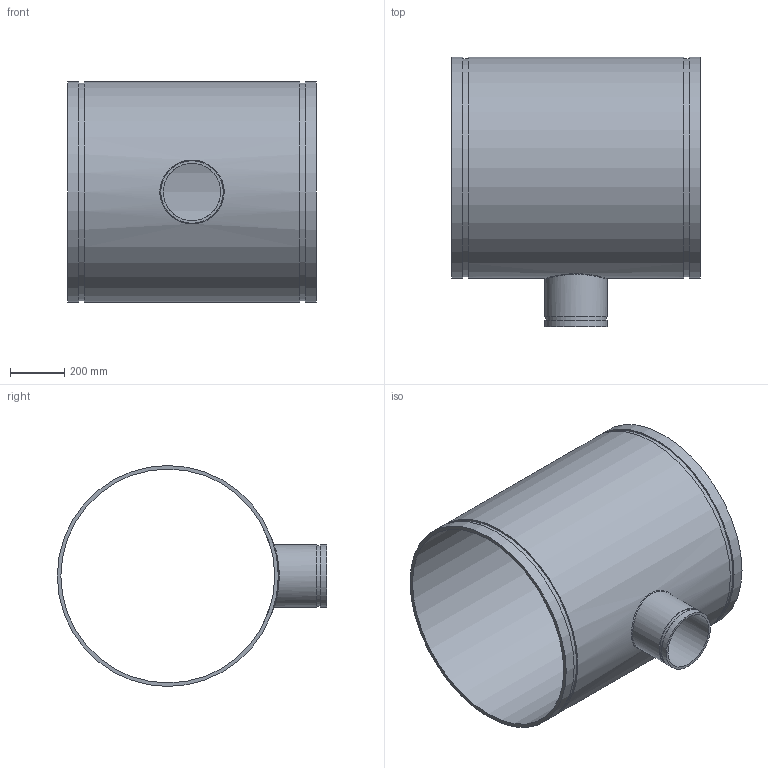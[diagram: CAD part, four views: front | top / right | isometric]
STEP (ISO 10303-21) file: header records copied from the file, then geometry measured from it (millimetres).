
FILE_DESCRIPTION(/* description */ ('VIC REDUCING TEE No 25-C','CAx-IF Rec.Pracs.---Representation and Presentation of Product Manufacturing Information (PMI)---4.0---2014-10-13'),/* implementation_level */ '2;1');
FILE_NAME(/* name */ 'C:\Users\Vjadhav\AppData\Roaming\Autodesk\ApplicationPlugins\Back Up\Victaulic_AWWA_Tee Reducing_No 25-C (DRG)\Victaulic_AWWA_Tee Reducing_No 25-C (DRG)_30.0x08.0 (750x200).stp',/* time_stamp */ '2020-08-18T18:19:10+06:00',/* author */ ('CORINNE GRAY'),/* organization */ ('Victaulic'),/* preprocessor_version */ 'ST-DEVELOPER v17.2',/* originating_system */ 'Autodesk Inventor 2019',/* authorisation */ '');
FILE_SCHEMA (('AP242_MANAGED_MODEL_BASED_3D_ENGINEERING_MIM_LF { 1 0 10303 442 1 1 4 }'));
Length unit declared in the file: inch
Products named in the file (1): 25C-30.0x08.0
Bounding box: 914.4 x 990.6 x 812.8 mm (x, y, z)
Volume: 29899397.2 mm3; surface area: 4915840 mm2
Topology: 1 solids, 1 shells, 20 faces, 44 edges, 33 vertices
Faces by surface type: cylinder 10, plane 9, bspline 1
Full cylindrical faces by diameter (mm): 211.582 x1, 223.037 x1, 229.87 x2, 786.892 x1, 801.37 x2, 812.8 x3
Entity records: 982 total; most frequent: CARTESIAN_POINT 358, DIRECTION 135, ORIENTED_EDGE 90, AXIS2_PLACEMENT_3D 62, EDGE_CURVE 45, VERTEX_POINT 34, EDGE_LOOP 31, CIRCLE 29
